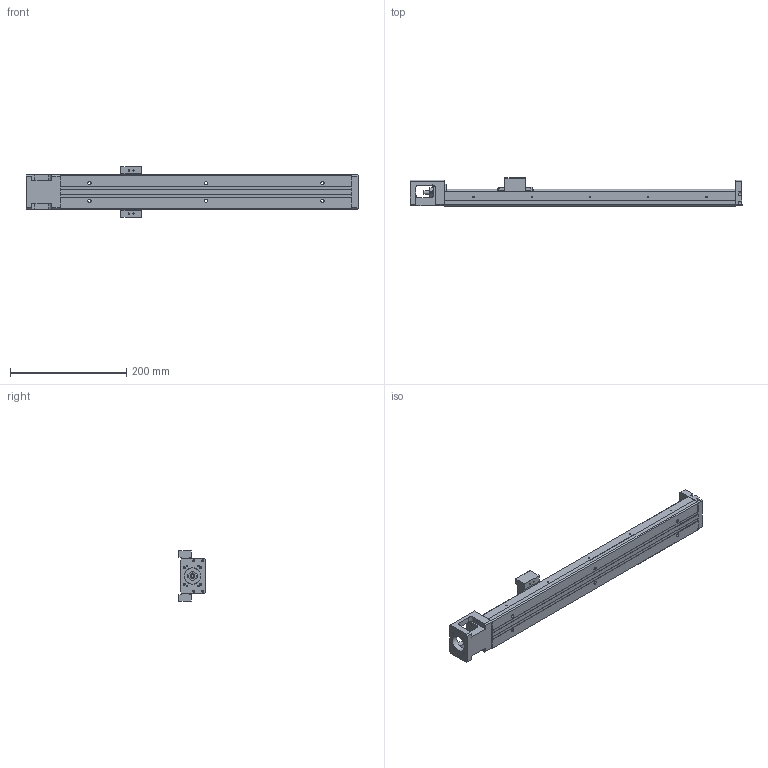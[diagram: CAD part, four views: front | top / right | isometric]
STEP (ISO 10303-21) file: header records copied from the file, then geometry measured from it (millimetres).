
FILE_DESCRIPTION(/* description */ (''),/* implementation_level */ '2;1');
FILE_NAME(/* name */ '33S-500.stp',/* time_stamp */ '2016-12-20T13:47:46+08:00',/* author */ (''),/* organization */ (''),/* preprocessor_version */ 'ST-DEVELOPER v11',/* originating_system */ 'SIEMENS UGS NX 6.0',/* authorisation */ '');
FILE_SCHEMA (('AUTOMOTIVE_DESIGN { 1 0 10303 214 1 1 1 1 }'));
Length unit declared in the file: millimetre
Products named in the file (1): model4
Bounding box: 570 x 47.95 x 86 mm (x, y, z)
Volume: 640398.7 mm3; surface area: 180129.8 mm2
Topology: 6 solids, 15 shells, 674 faces, 1696 edges, 1118 vertices
Faces by surface type: plane 402, cylinder 187, bspline 31, cone 22, extrusion 21, torus 9, revolution 2
Full cylindrical faces by diameter (mm): 1.6 x3, 1.65 x4, 2.15 x9, 2.42 x4, 2.45 x4, 2.5 x16, 3.2 x4, 3.3 x4, 3.4 x4, 3.5 x10, 3.969 x1, 4 x4, 4.001 x1, 4.135 x2, 4.2 x2, 5.5 x6, 6 x5, 7.6 x1, 8 x5, 9.5 x6, 10.72 x3, 11.8 x2, 12 x6, 12.8 x1, 13 x2, 14 x1, 17.38 x3, 21.5 x1, 22 x2, 28 x1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
Entity records: 35126 total; most frequent: CARTESIAN_POINT 16298, DIRECTION 3040, ORIENTED_EDGE 2946, EDGE_CURVE 1473, AXIS2_PLACEMENT_3D 1067, VERTEX_POINT 1045, EDGE_LOOP 948, VECTOR 904
